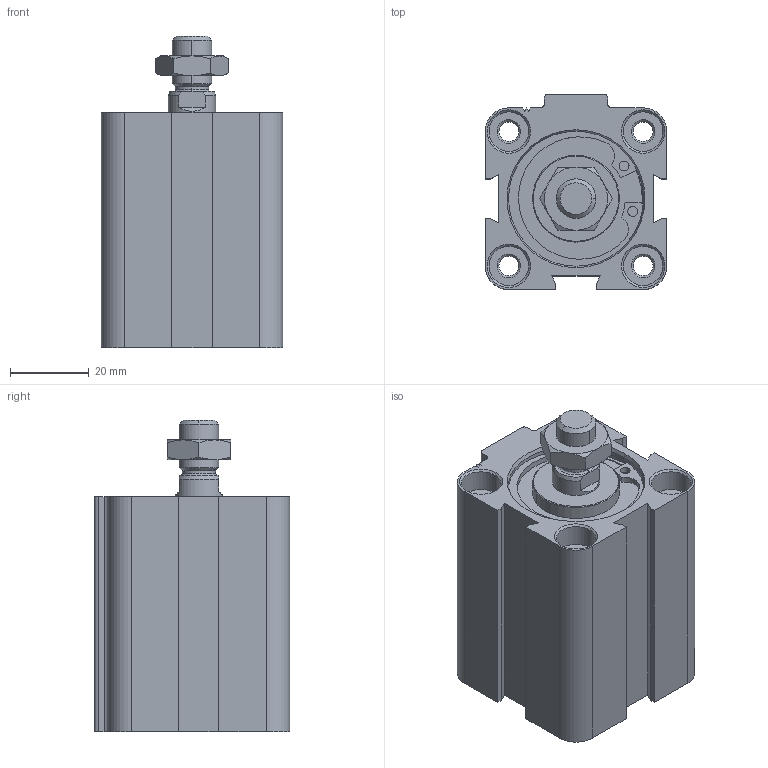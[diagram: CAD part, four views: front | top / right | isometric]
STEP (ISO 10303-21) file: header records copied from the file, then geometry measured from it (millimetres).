
FILE_DESCRIPTION (( 'STEP AP214' ), '1' );
FILE_NAME ('WSAC-032-0020-ML (3D).STEP', '2021-12-07T07:53:40', ( '' ), ( '' ), 'SwSTEP 2.0', 'SolidWorks 2016', '' );
FILE_SCHEMA (( 'AUTOMOTIVE_DESIGN' ));
Length unit declared in the file: millimetre
Products named in the file (2): WSAC-032-0020-ML (3D); Group3^WSAC-032-0020-ML (3D)
Assembly tree (1 placements, depth 2):
  WSAC-032-0020-ML (3D)
    Group3^WSAC-032-0020-ML (3D)
Bounding box: 46 x 49.5 x 78.9 mm (x, y, z)
Volume: 179646 mm3; surface area: 65712.7 mm2
Topology: 8 solids, 8 shells, 949 faces, 2418 edges, 1581 vertices
Faces by surface type: plane 492, bspline 206, cylinder 156, cone 95
Entity records: 44518 total; most frequent: CARTESIAN_POINT 17368, ORIENTED_EDGE 4836, DIRECTION 3881, EDGE_CURVE 2418, VERTEX_POINT 1581, VECTOR 1565, LINE 1565, AXIS2_PLACEMENT_3D 1158
